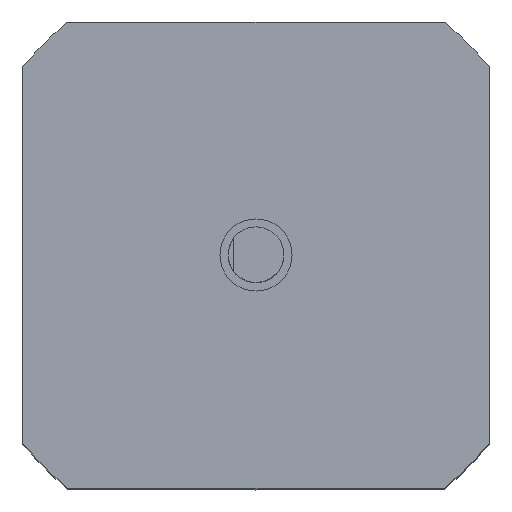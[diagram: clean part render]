
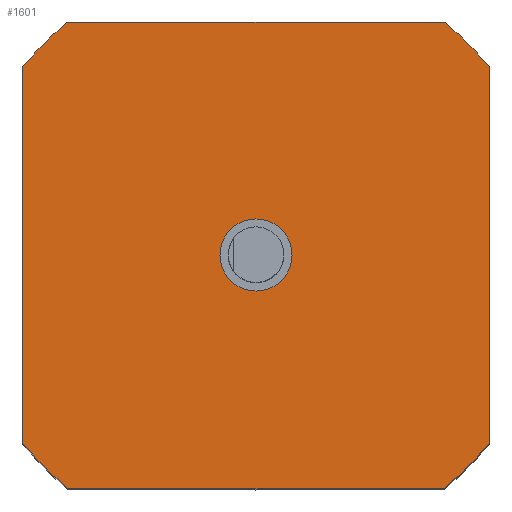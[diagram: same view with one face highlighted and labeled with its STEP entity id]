
A CAD part, top view. The second image highlights one B-rep face of the part: STEP entity #1601.
In plain terms, the highlighted planar face has unit normal (0, 0, 1).
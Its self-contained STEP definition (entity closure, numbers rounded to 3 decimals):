
#17 = ORIENTED_EDGE ( 'NONE', *, *, #1226, .T. ) ;
#26 = CIRCLE ( 'NONE', #830, 27. ) ;
#32 = VERTEX_POINT ( 'NONE', #1208 ) ;
#45 = VECTOR ( 'NONE', #1467, 1000. ) ;
#55 = AXIS2_PLACEMENT_3D ( 'NONE', #1206, #582, #957 ) ;
#70 = AXIS2_PLACEMENT_3D ( 'NONE', #378, #1149, #1267 ) ;
#72 = EDGE_CURVE ( 'NONE', #1469, #32, #1405, .T. ) ;
#74 = AXIS2_PLACEMENT_3D ( 'NONE', #377, #1497, #1245 ) ;
#95 = DIRECTION ( 'NONE',  ( 0., 1., 0. ) ) ;
#139 = ORIENTED_EDGE ( 'NONE', *, *, #305, .T. ) ;
#150 = DIRECTION ( 'NONE',  ( 0., 0., 1. ) ) ;
#156 = CARTESIAN_POINT ( 'NONE',  ( -16.971, -21., 101. ) ) ;
#175 = DIRECTION ( 'NONE',  ( 1., 0., 0. ) ) ;
#246 = FACE_OUTER_BOUND ( 'NONE', #708, .T. ) ;
#305 = EDGE_CURVE ( 'NONE', #353, #1469, #604, .T. ) ;
#319 = ORIENTED_EDGE ( 'NONE', *, *, #1585, .T. ) ;
#353 = VERTEX_POINT ( 'NONE', #156 ) ;
#355 = VERTEX_POINT ( 'NONE', #409 ) ;
#363 = EDGE_CURVE ( 'NONE', #1602, #559, #26, .T. ) ;
#377 = CARTESIAN_POINT ( 'NONE',  ( 0., 0., 101. ) ) ;
#378 = CARTESIAN_POINT ( 'NONE',  ( 0., 0., 101. ) ) ;
#384 = AXIS2_PLACEMENT_3D ( 'NONE', #796, #439, #175 ) ;
#391 = CARTESIAN_POINT ( 'NONE',  ( 16.971, -21., 101. ) ) ;
#404 = DIRECTION ( 'NONE',  ( 0., 0., -1. ) ) ;
#409 = CARTESIAN_POINT ( 'NONE',  ( 3.25, 0., 101. ) ) ;
#421 = DIRECTION ( 'NONE',  ( 0., -1., 0. ) ) ;
#439 = DIRECTION ( 'NONE',  ( 0., 0., -1. ) ) ;
#447 = CIRCLE ( 'NONE', #70, 3.25 ) ;
#450 = EDGE_CURVE ( 'NONE', #355, #1047, #1116, .T. ) ;
#455 = ORIENTED_EDGE ( 'NONE', *, *, #968, .T. ) ;
#469 = ORIENTED_EDGE ( 'NONE', *, *, #808, .F. ) ;
#484 = CIRCLE ( 'NONE', #55, 27. ) ;
#497 = CARTESIAN_POINT ( 'NONE',  ( 21., 16.971, 101. ) ) ;
#504 = LINE ( 'NONE', #654, #1381 ) ;
#548 = PLANE ( 'NONE',  #735 ) ;
#550 = CIRCLE ( 'NONE', #74, 27. ) ;
#554 = CARTESIAN_POINT ( 'NONE',  ( -16.971, 21., 101. ) ) ;
#559 = VERTEX_POINT ( 'NONE', #554 ) ;
#582 = DIRECTION ( 'NONE',  ( 0., 0., -1. ) ) ;
#604 = LINE ( 'NONE', #633, #1232 ) ;
#633 = CARTESIAN_POINT ( 'NONE',  ( -21., -21., 101. ) ) ;
#654 = CARTESIAN_POINT ( 'NONE',  ( -16.971, 21., 101. ) ) ;
#674 = DIRECTION ( 'NONE',  ( 1., 0., 0. ) ) ;
#708 = EDGE_LOOP ( 'NONE', ( #1370, #455, #1237, #139, #821, #17, #469, #319 ) ) ;
#720 = AXIS2_PLACEMENT_3D ( 'NONE', #732, #1098, #95 ) ;
#732 = CARTESIAN_POINT ( 'NONE',  ( 0., 0., 101. ) ) ;
#735 = AXIS2_PLACEMENT_3D ( 'NONE', #1417, #150, #674 ) ;
#782 = CARTESIAN_POINT ( 'NONE',  ( -21., -16.971, 101. ) ) ;
#795 = FACE_BOUND ( 'NONE', #1259, .T. ) ;
#796 = CARTESIAN_POINT ( 'NONE',  ( 0., 0., 101. ) ) ;
#808 = EDGE_CURVE ( 'NONE', #876, #1445, #550, .T. ) ;
#821 = ORIENTED_EDGE ( 'NONE', *, *, #72, .T. ) ;
#830 = AXIS2_PLACEMENT_3D ( 'NONE', #1139, #404, #1148 ) ;
#832 = VECTOR ( 'NONE', #421, 1000. ) ;
#876 = VERTEX_POINT ( 'NONE', #1491 ) ;
#916 = VERTEX_POINT ( 'NONE', #782 ) ;
#957 = DIRECTION ( 'NONE',  ( 0., 1., 0. ) ) ;
#968 = EDGE_CURVE ( 'NONE', #1602, #916, #1179, .T. ) ;
#1004 = ORIENTED_EDGE ( 'NONE', *, *, #450, .T. ) ;
#1039 = CARTESIAN_POINT ( 'NONE',  ( -21., -16.971, 101. ) ) ;
#1047 = VERTEX_POINT ( 'NONE', #1557 ) ;
#1089 = CARTESIAN_POINT ( 'NONE',  ( 21., 16.971, 101. ) ) ;
#1098 = DIRECTION ( 'NONE',  ( 0., 0., 1. ) ) ;
#1116 = CIRCLE ( 'NONE', #384, 3.25 ) ;
#1139 = CARTESIAN_POINT ( 'NONE',  ( 0., 0., 101. ) ) ;
#1148 = DIRECTION ( 'NONE',  ( 0., 1., 0. ) ) ;
#1149 = DIRECTION ( 'NONE',  ( 0., 0., -1. ) ) ;
#1170 = DIRECTION ( 'NONE',  ( -1., 0., 0. ) ) ;
#1179 = LINE ( 'NONE', #1039, #832 ) ;
#1206 = CARTESIAN_POINT ( 'NONE',  ( 0., 0., 101. ) ) ;
#1208 = CARTESIAN_POINT ( 'NONE',  ( 21., -16.971, 101. ) ) ;
#1209 = EDGE_CURVE ( 'NONE', #353, #916, #484, .T. ) ;
#1226 = EDGE_CURVE ( 'NONE', #32, #1445, #1365, .T. ) ;
#1232 = VECTOR ( 'NONE', #1500, 1000. ) ;
#1237 = ORIENTED_EDGE ( 'NONE', *, *, #1209, .F. ) ;
#1245 = DIRECTION ( 'NONE',  ( 0., 1., 0. ) ) ;
#1259 = EDGE_LOOP ( 'NONE', ( #1004, #1312 ) ) ;
#1267 = DIRECTION ( 'NONE',  ( 1., 0., 0. ) ) ;
#1312 = ORIENTED_EDGE ( 'NONE', *, *, #1459, .T. ) ;
#1365 = LINE ( 'NONE', #1089, #45 ) ;
#1370 = ORIENTED_EDGE ( 'NONE', *, *, #363, .F. ) ;
#1381 = VECTOR ( 'NONE', #1170, 1000. ) ;
#1405 = CIRCLE ( 'NONE', #720, 27. ) ;
#1417 = CARTESIAN_POINT ( 'NONE',  ( -21., -21., 101. ) ) ;
#1445 = VERTEX_POINT ( 'NONE', #497 ) ;
#1459 = EDGE_CURVE ( 'NONE', #1047, #355, #447, .T. ) ;
#1467 = DIRECTION ( 'NONE',  ( 0., 1., 0. ) ) ;
#1469 = VERTEX_POINT ( 'NONE', #391 ) ;
#1491 = CARTESIAN_POINT ( 'NONE',  ( 16.971, 21., 101. ) ) ;
#1497 = DIRECTION ( 'NONE',  ( 0., 0., -1. ) ) ;
#1500 = DIRECTION ( 'NONE',  ( 1., 0., 0. ) ) ;
#1539 = CARTESIAN_POINT ( 'NONE',  ( -21., 16.971, 101. ) ) ;
#1557 = CARTESIAN_POINT ( 'NONE',  ( -3.25, 0., 101. ) ) ;
#1585 = EDGE_CURVE ( 'NONE', #876, #559, #504, .T. ) ;
#1601 = ADVANCED_FACE ( 'NONE', ( #246, #795 ), #548, .T. ) ;
#1602 = VERTEX_POINT ( 'NONE', #1539 ) ;
